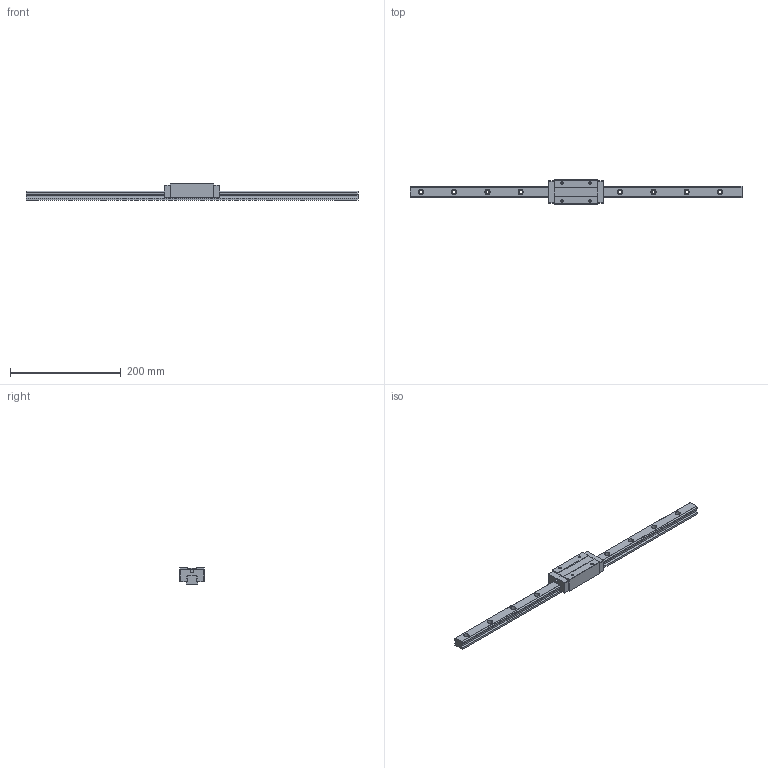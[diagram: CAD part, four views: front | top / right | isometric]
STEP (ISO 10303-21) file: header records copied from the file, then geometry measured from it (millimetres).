
FILE_DESCRIPTION (( 'STEP AP203' ), '1' );
FILE_NAME ('TRH20VE-XN-§ï.STEP', '2023-08-29T06:53:01', ( '' ), ( '' ), 'SwSTEP 2.0', 'SolidWorks 2022', '' );
FILE_SCHEMA (( 'CONFIG_CONTROL_DESIGN' ));
Length unit declared in the file: millimetre
Products named in the file (1): TRH20VE-XN-改
Bounding box: 600 x 44 x 30 mm (x, y, z)
Volume: 253472.7 mm3; surface area: 67397.1 mm2
Topology: 1 solids, 1 shells, 186 faces, 513 edges, 334 vertices
Faces by surface type: cylinder 88, plane 82, cone 16
Entity records: 6047 total; most frequent: DIRECTION 1058, CARTESIAN_POINT 1055, ORIENTED_EDGE 1010, EDGE_CURVE 505, AXIS2_PLACEMENT_3D 373, VERTEX_POINT 334, VECTOR 312, LINE 312
